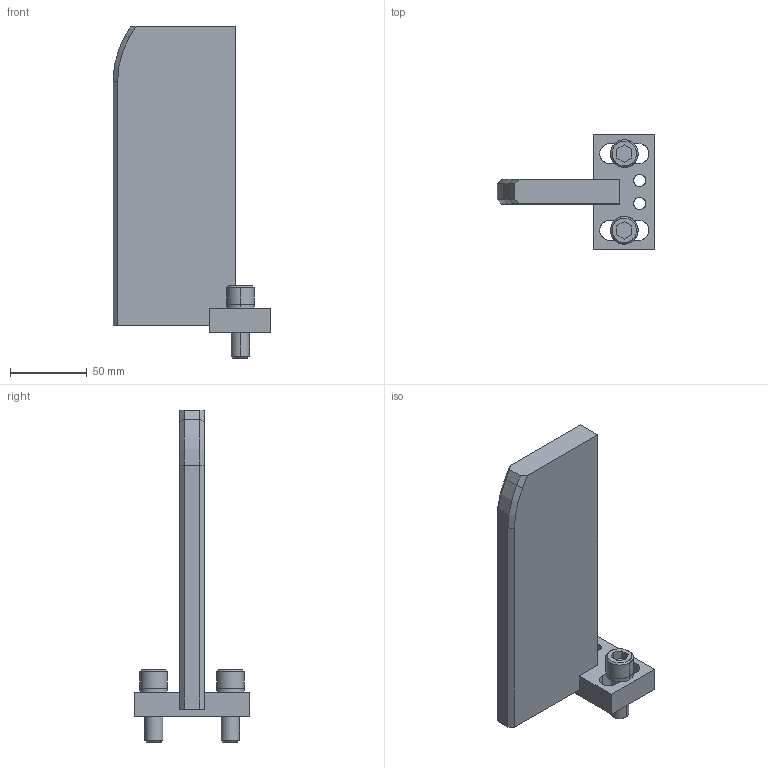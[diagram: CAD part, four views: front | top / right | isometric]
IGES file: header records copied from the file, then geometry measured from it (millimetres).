
Global section: file name: E:\UnigraphicsGraphicData\MISUMI_PRESS-PARTS\IGES\3d_ngwa-200-20-s80-m12_01580_r00.igs; native system: NX V5.0; preprocessor: UGS NX IGES V5.0; author: MISUMI; date: 20110105.162109; units: millimetre
Bounding box: 103 x 75 x 216.5 mm (x, y, z)
Surface area: 57248.4 mm2 (no closed solid volume)
Topology: 0 solids, 0 shells, 104 faces, 665 edges, 665 vertices
Faces by surface type: bspline 104
